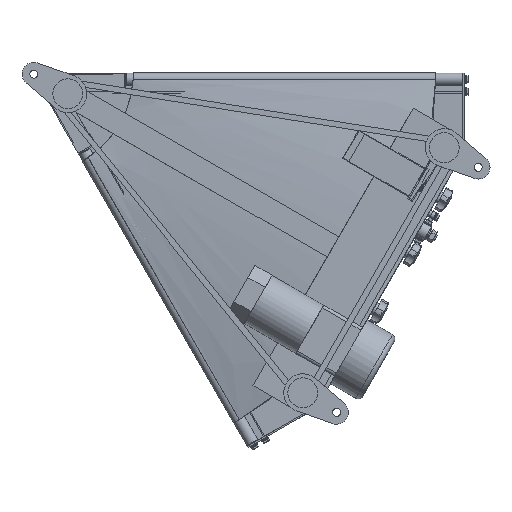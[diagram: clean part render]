
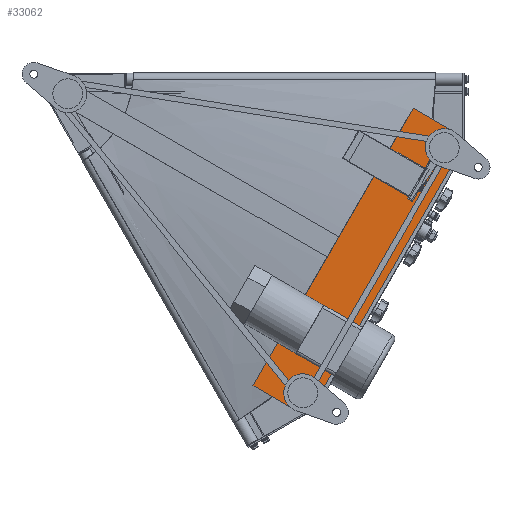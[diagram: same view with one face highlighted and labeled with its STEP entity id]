
A CAD part, front view. The second image highlights one B-rep face of the part: STEP entity #33062.
In plain terms, the highlighted planar face has unit normal (0, -1, 0).
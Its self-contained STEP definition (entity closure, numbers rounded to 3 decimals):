
#726 = DIRECTION ( 'NONE',  ( 0.5, 0., 0.866 ) ) ;
#1098 = VECTOR ( 'NONE', #3241, 1000. ) ;
#1813 = EDGE_CURVE ( 'NONE', #7875, #26549, #12192, .T. ) ;
#2120 = ORIENTED_EDGE ( 'NONE', *, *, #15577, .F. ) ;
#3241 = DIRECTION ( 'NONE',  ( -0.866, 0., 0.5 ) ) ;
#3613 = EDGE_CURVE ( 'NONE', #4976, #7875, #10083, .T. ) ;
#3899 = LINE ( 'NONE', #18926, #5130 ) ;
#4486 = CARTESIAN_POINT ( 'NONE',  ( 9.062, -167.5, -5.232 ) ) ;
#4584 = CARTESIAN_POINT ( 'NONE',  ( 673.448, -167.5, -91.48 ) ) ;
#4976 = VERTEX_POINT ( 'NONE', #27015 ) ;
#5114 = CARTESIAN_POINT ( 'NONE',  ( 612.827, -167.5, -56.48 ) ) ;
#5130 = VECTOR ( 'NONE', #6138, 1000. ) ;
#6138 = DIRECTION ( 'NONE',  ( -0.5, 0., -0.866 ) ) ;
#6230 = CARTESIAN_POINT ( 'NONE',  ( 684.429, -167.5, -132.461 ) ) ;
#7875 = VERTEX_POINT ( 'NONE', #5114 ) ;
#9456 = VERTEX_POINT ( 'NONE', #32436 ) ;
#10083 = LINE ( 'NONE', #16334, #25781 ) ;
#12192 = LINE ( 'NONE', #14695, #20230 ) ;
#14695 = CARTESIAN_POINT ( 'NONE',  ( 612.827, -167.5, -56.48 ) ) ;
#14963 = CARTESIAN_POINT ( 'NONE',  ( 456.929, -167.5, -526.503 ) ) ;
#15131 = EDGE_CURVE ( 'NONE', #17098, #9456, #31671, .T. ) ;
#15170 = VECTOR ( 'NONE', #21495, 1000. ) ;
#15577 = EDGE_CURVE ( 'NONE', #9456, #4976, #30463, .T. ) ;
#15827 = ORIENTED_EDGE ( 'NONE', *, *, #1813, .F. ) ;
#15984 = CARTESIAN_POINT ( 'NONE',  ( 684.429, -167.5, -132.461 ) ) ;
#16334 = CARTESIAN_POINT ( 'NONE',  ( 355.327, -167.5, -502.483 ) ) ;
#17098 = VERTEX_POINT ( 'NONE', #14963 ) ;
#17127 = AXIS2_PLACEMENT_3D ( 'NONE', #4486, #22471, #22685 ) ;
#18926 = CARTESIAN_POINT ( 'NONE',  ( 456.929, -167.5, -526.503 ) ) ;
#19019 = DIRECTION ( 'NONE',  ( 0.259, 0., -0.966 ) ) ;
#19231 = LINE ( 'NONE', #6230, #22065 ) ;
#19341 = CARTESIAN_POINT ( 'NONE',  ( 415.948, -167.5, -537.483 ) ) ;
#20230 = VECTOR ( 'NONE', #27843, 1000. ) ;
#20894 = EDGE_LOOP ( 'NONE', ( #24966, #15827, #32890, #2120, #23148, #32101 ) ) ;
#21495 = DIRECTION ( 'NONE',  ( -0.966, 0., -0.259 ) ) ;
#21844 = FACE_OUTER_BOUND ( 'NONE', #20894, .T. ) ;
#22065 = VECTOR ( 'NONE', #19019, 1000. ) ;
#22471 = DIRECTION ( 'NONE',  ( 0., 1., 0. ) ) ;
#22685 = DIRECTION ( 'NONE',  ( 0.208, 0., 0.978 ) ) ;
#23148 = ORIENTED_EDGE ( 'NONE', *, *, #15131, .F. ) ;
#24925 = VERTEX_POINT ( 'NONE', #15984 ) ;
#24966 = ORIENTED_EDGE ( 'NONE', *, *, #25087, .F. ) ;
#25087 = EDGE_CURVE ( 'NONE', #26549, #24925, #19231, .T. ) ;
#25299 = PLANE ( 'NONE',  #17127 ) ;
#25781 = VECTOR ( 'NONE', #726, 1000. ) ;
#26549 = VERTEX_POINT ( 'NONE', #4584 ) ;
#27015 = CARTESIAN_POINT ( 'NONE',  ( 355.327, -167.5, -502.483 ) ) ;
#27843 = DIRECTION ( 'NONE',  ( 0.866, 0., -0.5 ) ) ;
#30463 = LINE ( 'NONE', #31153, #1098 ) ;
#30565 = EDGE_CURVE ( 'NONE', #24925, #17098, #3899, .T. ) ;
#31153 = CARTESIAN_POINT ( 'NONE',  ( 355.327, -167.5, -502.483 ) ) ;
#31671 = LINE ( 'NONE', #19341, #15170 ) ;
#32101 = ORIENTED_EDGE ( 'NONE', *, *, #30565, .F. ) ;
#32436 = CARTESIAN_POINT ( 'NONE',  ( 415.948, -167.5, -537.483 ) ) ;
#32890 = ORIENTED_EDGE ( 'NONE', *, *, #3613, .F. ) ;
#33062 = ADVANCED_FACE ( 'NONE', ( #21844 ), #25299, .F. ) ;
